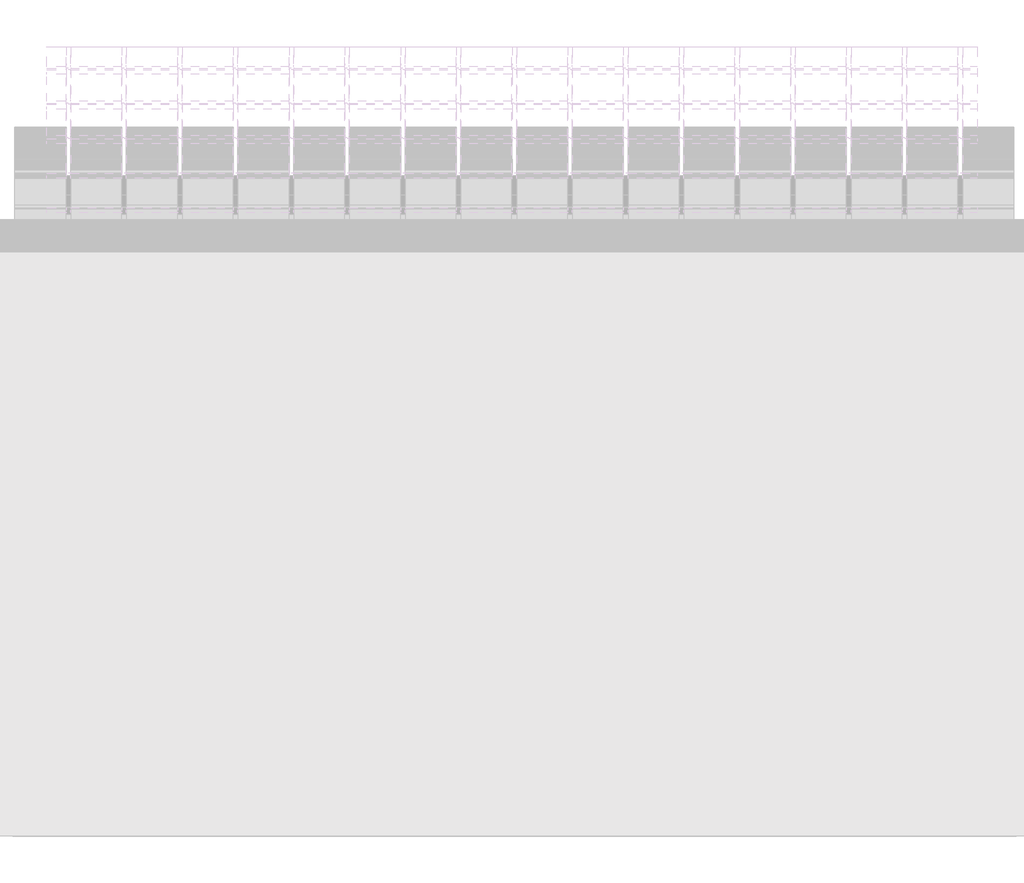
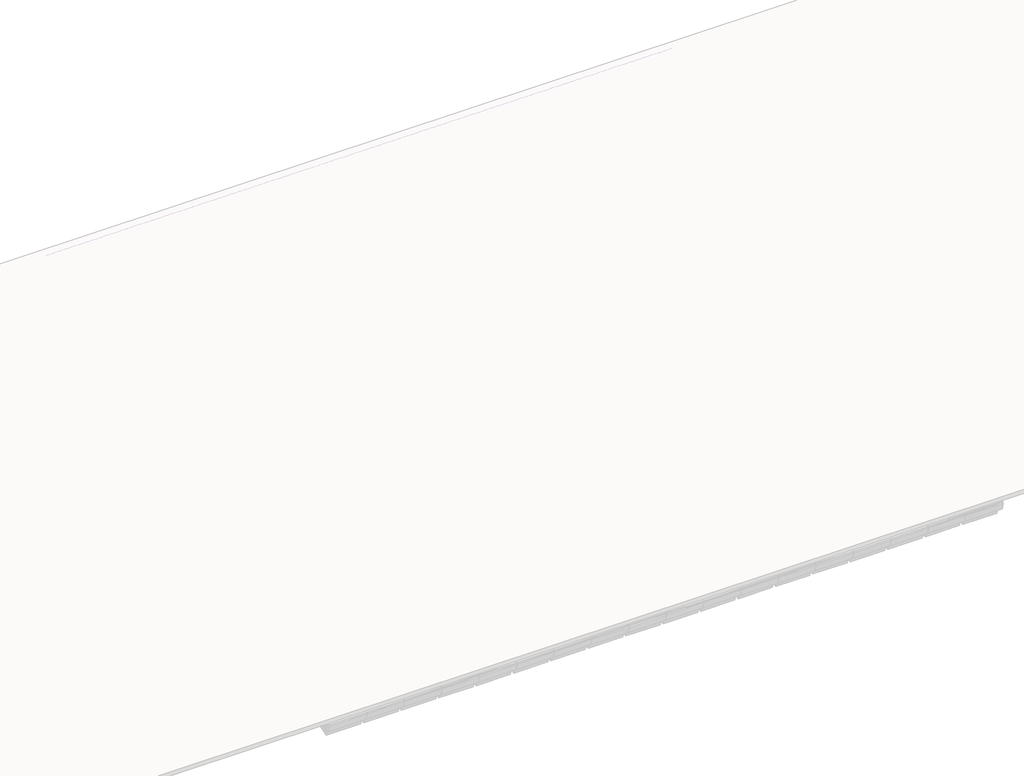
# One storey, part 17 of 57: 80 members, 44 plates.
"""IFC4 building model written with IfcOpenShell, lengths in millimetres."""

from ifc_helpers import new_model, si_unit, origin, place, context, project, spatial, transform, mapped, element, save
from components import rectangular_mullion_59984080, rectangular_mullion_2d2423ea, rectangular_mullion_caibro_e4384bba, rectangular_mullion_caibro_0993a3cf, rectangular_mullion_caibro_9bd7bc61, empty_system_panel_vazio_178faf58, empty_system_panel_vazio_2c78850d

model = new_model("IFC4")

# Units and contexts
model_context = context("Model", 3, world=origin())
ifc_project = project(units=[si_unit("LENGTHUNIT", "METRE", prefix="MILLI")], contexts=[model_context])

# Site, building, storey
site = spatial("IfcSite", under=ifc_project)
building = spatial("IfcBuilding", under=site)
storey = spatial("IfcBuildingStorey", under=building, Name="Nível 2", Elevation=4100.0)

# Members
placement = place(None, origin())
rectangular_mullion_shape = rectangular_mullion_59984080(model_context)
element("IfcMember", 1, ObjectType="Rectangular Mullion : Ripa", at=placement, inside=storey, context=model_context, shape_type="MappedRepresentation", body=[
    mapped(rectangular_mullion_shape, transform((12523.6662678, 8162.5832694, 3598.8241594), x_axis=(0.0, 0.9578262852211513, 0.2873478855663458), y_axis=(0.0, 0.2873478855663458, -0.9578262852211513), z_axis=(-1.0, 0.0, 0.0))),
])
element("IfcMember", 2, ObjectType="Rectangular Mullion : Ripa", at=placement, inside=storey, context=model_context, shape_type="MappedRepresentation", body=[
    mapped(rectangular_mullion_shape, transform((13120.7210242, 8162.5832694, 3598.8241594), x_axis=(0.0, 0.9578262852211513, 0.2873478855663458), y_axis=(0.0, 0.2873478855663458, -0.9578262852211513), z_axis=(-1.0, 0.0, 0.0))),
])
element("IfcMember", 3, ObjectType="Rectangular Mullion : Ripa", at=placement, inside=storey, context=model_context, shape_type="MappedRepresentation", body=[
    mapped(rectangular_mullion_shape, transform((13717.7757807, 8162.5832694, 3598.8241594), x_axis=(0.0, 0.9578262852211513, 0.2873478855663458), y_axis=(0.0, 0.2873478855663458, -0.9578262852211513), z_axis=(-1.0, 0.0, 0.0))),
])
element("IfcMember", 4, ObjectType="Rectangular Mullion : Ripa", at=placement, inside=storey, context=model_context, shape_type="MappedRepresentation", body=[
    mapped(rectangular_mullion_shape, transform((14314.8305371, 8162.5832694, 3598.8241594), x_axis=(0.0, 0.9578262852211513, 0.2873478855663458), y_axis=(0.0, 0.2873478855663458, -0.9578262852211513), z_axis=(-1.0, 0.0, 0.0))),
])
element("IfcMember", 5, ObjectType="Rectangular Mullion : Ripa", at=placement, inside=storey, context=model_context, shape_type="MappedRepresentation", body=[
    mapped(rectangular_mullion_shape, transform((14911.8852935, 8162.5832694, 3598.8241594), x_axis=(0.0, 0.9578262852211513, 0.2873478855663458), y_axis=(0.0, 0.2873478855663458, -0.9578262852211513), z_axis=(-1.0, 0.0, 0.0))),
])
element("IfcMember", 6, ObjectType="Rectangular Mullion : Ripa", at=placement, inside=storey, context=model_context, shape_type="MappedRepresentation", body=[
    mapped(rectangular_mullion_shape, transform((15508.9400499, 8162.5832694, 3598.8241594), x_axis=(0.0, 0.9578262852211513, 0.2873478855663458), y_axis=(0.0, 0.2873478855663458, -0.9578262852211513), z_axis=(-1.0, 0.0, 0.0))),
])
element("IfcMember", 7, ObjectType="Rectangular Mullion : Ripa", at=placement, inside=storey, context=model_context, shape_type="MappedRepresentation", body=[
    mapped(rectangular_mullion_shape, transform((12523.6662678, 8532.7605281, 3709.877337), x_axis=(0.0, 0.9578262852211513, 0.2873478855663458), y_axis=(0.0, 0.2873478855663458, -0.9578262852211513), z_axis=(-1.0, 0.0, 0.0))),
])
element("IfcMember", 8, ObjectType="Rectangular Mullion : Ripa", at=placement, inside=storey, context=model_context, shape_type="MappedRepresentation", body=[
    mapped(rectangular_mullion_shape, transform((13120.7210242, 8532.7605281, 3709.877337), x_axis=(0.0, 0.9578262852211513, 0.2873478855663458), y_axis=(0.0, 0.2873478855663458, -0.9578262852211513), z_axis=(-1.0, 0.0, 0.0))),
])
element("IfcMember", 9, ObjectType="Rectangular Mullion : Ripa", at=placement, inside=storey, context=model_context, shape_type="MappedRepresentation", body=[
    mapped(rectangular_mullion_shape, transform((13717.7757807, 8532.7605281, 3709.877337), x_axis=(0.0, 0.9578262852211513, 0.2873478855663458), y_axis=(0.0, 0.2873478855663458, -0.9578262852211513), z_axis=(-1.0, 0.0, 0.0))),
])
element("IfcMember", 10, ObjectType="Rectangular Mullion : Ripa", at=placement, inside=storey, context=model_context, shape_type="MappedRepresentation", body=[
    mapped(rectangular_mullion_shape, transform((14314.8305371, 8532.7605281, 3709.877337), x_axis=(0.0, 0.9578262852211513, 0.2873478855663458), y_axis=(0.0, 0.2873478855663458, -0.9578262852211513), z_axis=(-1.0, 0.0, 0.0))),
])
element("IfcMember", 11, ObjectType="Rectangular Mullion : Ripa", at=placement, inside=storey, context=model_context, shape_type="MappedRepresentation", body=[
    mapped(rectangular_mullion_shape, transform((14911.8852935, 8532.7605281, 3709.877337), x_axis=(0.0, 0.9578262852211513, 0.2873478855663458), y_axis=(0.0, 0.2873478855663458, -0.9578262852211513), z_axis=(-1.0, 0.0, 0.0))),
])
element("IfcMember", 12, ObjectType="Rectangular Mullion : Ripa", at=placement, inside=storey, context=model_context, shape_type="MappedRepresentation", body=[
    mapped(rectangular_mullion_shape, transform((15508.9400499, 8532.7605281, 3709.877337), x_axis=(0.0, 0.9578262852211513, 0.2873478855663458), y_axis=(0.0, 0.2873478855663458, -0.9578262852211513), z_axis=(-1.0, 0.0, 0.0))),
])
element("IfcMember", 13, ObjectType="Rectangular Mullion : Ripa", at=placement, inside=storey, context=model_context, shape_type="MappedRepresentation", body=[
    mapped(rectangular_mullion_shape, transform((12523.6662678, 8902.9377868, 3820.9305146), x_axis=(0.0, 0.9578262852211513, 0.2873478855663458), y_axis=(0.0, 0.2873478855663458, -0.9578262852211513), z_axis=(-1.0, 0.0, 0.0))),
])
element("IfcMember", 14, ObjectType="Rectangular Mullion : Ripa", at=placement, inside=storey, context=model_context, shape_type="MappedRepresentation", body=[
    mapped(rectangular_mullion_shape, transform((13120.7210242, 8902.9377868, 3820.9305146), x_axis=(0.0, 0.9578262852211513, 0.2873478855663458), y_axis=(0.0, 0.2873478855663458, -0.9578262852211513), z_axis=(-1.0, 0.0, 0.0))),
])
element("IfcMember", 15, ObjectType="Rectangular Mullion : Ripa", at=placement, inside=storey, context=model_context, shape_type="MappedRepresentation", body=[
    mapped(rectangular_mullion_shape, transform((13717.7757807, 8902.9377868, 3820.9305146), x_axis=(0.0, 0.9578262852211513, 0.2873478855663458), y_axis=(0.0, 0.2873478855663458, -0.9578262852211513), z_axis=(-1.0, 0.0, 0.0))),
])
element("IfcMember", 16, ObjectType="Rectangular Mullion : Ripa", at=placement, inside=storey, context=model_context, shape_type="MappedRepresentation", body=[
    mapped(rectangular_mullion_shape, transform((14314.8305371, 8902.9377868, 3820.9305146), x_axis=(0.0, 0.9578262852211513, 0.2873478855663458), y_axis=(0.0, 0.2873478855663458, -0.9578262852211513), z_axis=(-1.0, 0.0, 0.0))),
])
element("IfcMember", 17, ObjectType="Rectangular Mullion : Ripa", at=placement, inside=storey, context=model_context, shape_type="MappedRepresentation", body=[
    mapped(rectangular_mullion_shape, transform((14911.8852935, 8902.9377868, 3820.9305146), x_axis=(0.0, 0.9578262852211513, 0.2873478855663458), y_axis=(0.0, 0.2873478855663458, -0.9578262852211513), z_axis=(-1.0, 0.0, 0.0))),
])
element("IfcMember", 18, ObjectType="Rectangular Mullion : Ripa", at=placement, inside=storey, context=model_context, shape_type="MappedRepresentation", body=[
    mapped(rectangular_mullion_shape, transform((15508.9400499, 8902.9377868, 3820.9305146), x_axis=(0.0, 0.9578262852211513, 0.2873478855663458), y_axis=(0.0, 0.2873478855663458, -0.9578262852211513), z_axis=(-1.0, 0.0, 0.0))),
])
element("IfcMember", 19, ObjectType="Rectangular Mullion : Ripa", at=placement, inside=storey, context=model_context, shape_type="MappedRepresentation", body=[
    mapped(rectangular_mullion_shape, transform((12523.6662678, 9273.1150454, 3931.9836922), x_axis=(0.0, 0.9578262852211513, 0.2873478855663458), y_axis=(0.0, 0.2873478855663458, -0.9578262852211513), z_axis=(-1.0, 0.0, 0.0))),
])
element("IfcMember", 20, ObjectType="Rectangular Mullion : Ripa", at=placement, inside=storey, context=model_context, shape_type="MappedRepresentation", body=[
    mapped(rectangular_mullion_shape, transform((13120.7210242, 9273.1150454, 3931.9836922), x_axis=(0.0, 0.9578262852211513, 0.2873478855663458), y_axis=(0.0, 0.2873478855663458, -0.9578262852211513), z_axis=(-1.0, 0.0, 0.0))),
])
element("IfcMember", 21, ObjectType="Rectangular Mullion : Ripa", at=placement, inside=storey, context=model_context, shape_type="MappedRepresentation", body=[
    mapped(rectangular_mullion_shape, transform((13717.7757807, 9273.1150454, 3931.9836922), x_axis=(0.0, 0.9578262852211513, 0.2873478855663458), y_axis=(0.0, 0.2873478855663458, -0.9578262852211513), z_axis=(-1.0, 0.0, 0.0))),
])
element("IfcMember", 22, ObjectType="Rectangular Mullion : Ripa", at=placement, inside=storey, context=model_context, shape_type="MappedRepresentation", body=[
    mapped(rectangular_mullion_shape, transform((14314.8305371, 9273.1150454, 3931.9836922), x_axis=(0.0, 0.9578262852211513, 0.2873478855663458), y_axis=(0.0, 0.2873478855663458, -0.9578262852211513), z_axis=(-1.0, 0.0, 0.0))),
])
element("IfcMember", 23, ObjectType="Rectangular Mullion : Ripa", at=placement, inside=storey, context=model_context, shape_type="MappedRepresentation", body=[
    mapped(rectangular_mullion_shape, transform((12523.6662678, 9643.2923041, 4043.0368698), x_axis=(0.0, 0.9578262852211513, 0.2873478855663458), y_axis=(0.0, 0.2873478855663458, -0.9578262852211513), z_axis=(-1.0, 0.0, 0.0))),
])
element("IfcMember", 24, ObjectType="Rectangular Mullion : Ripa", at=placement, inside=storey, context=model_context, shape_type="MappedRepresentation", body=[
    mapped(rectangular_mullion_shape, transform((13120.7210242, 9643.2923041, 4043.0368698), x_axis=(0.0, 0.9578262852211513, 0.2873478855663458), y_axis=(0.0, 0.2873478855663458, -0.9578262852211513), z_axis=(-1.0, 0.0, 0.0))),
])
element("IfcMember", 25, ObjectType="Rectangular Mullion : Ripa", at=placement, inside=storey, context=model_context, shape_type="MappedRepresentation", body=[
    mapped(rectangular_mullion_shape, transform((13717.7757807, 9643.2923041, 4043.0368698), x_axis=(0.0, 0.9578262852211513, 0.2873478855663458), y_axis=(0.0, 0.2873478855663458, -0.9578262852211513), z_axis=(-1.0, 0.0, 0.0))),
])
element("IfcMember", 26, ObjectType="Rectangular Mullion : Ripa", at=placement, inside=storey, context=model_context, shape_type="MappedRepresentation", body=[
    mapped(rectangular_mullion_shape, transform((11329.556755, 11124.0013387, 4487.2495802), x_axis=(0.0, 0.9578262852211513, 0.2873478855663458), y_axis=(0.0, 0.2873478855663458, -0.9578262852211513), z_axis=(-1.0, 0.0, 0.0))),
])
element("IfcMember", 27, ObjectType="Rectangular Mullion : Ripa", at=placement, inside=storey, context=model_context, shape_type="MappedRepresentation", body=[
    mapped(rectangular_mullion_shape, transform((11926.6115114, 11124.0013387, 4487.2495802), x_axis=(0.0, 0.9578262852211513, 0.2873478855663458), y_axis=(0.0, 0.2873478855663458, -0.9578262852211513), z_axis=(-1.0, 0.0, 0.0))),
])
element("IfcMember", 28, ObjectType="Rectangular Mullion : Ripa", at=placement, inside=storey, context=model_context, shape_type="MappedRepresentation", body=[
    mapped(rectangular_mullion_shape, transform((11329.556755, 11494.1785974, 4598.3027578), x_axis=(0.0, 0.9578262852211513, 0.2873478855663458), y_axis=(0.0, 0.2873478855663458, -0.9578262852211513), z_axis=(-1.0, 0.0, 0.0))),
])
element("IfcMember", 29, ObjectType="Rectangular Mullion : Ripa", at=placement, inside=storey, context=model_context, shape_type="MappedRepresentation", body=[
    mapped(rectangular_mullion_shape, transform((11926.6115114, 11494.1785974, 4598.3027578), x_axis=(0.0, 0.9578262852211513, 0.2873478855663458), y_axis=(0.0, 0.2873478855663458, -0.9578262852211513), z_axis=(-1.0, 0.0, 0.0))),
])
element("IfcMember", 30, ObjectType="Rectangular Mullion : Ripa", at=placement, inside=storey, context=model_context, shape_type="MappedRepresentation", body=[
    mapped(rectangular_mullion_shape, transform((10732.5019985, 11864.3558561, 4709.3559354), x_axis=(0.0, 0.9578262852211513, 0.2873478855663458), y_axis=(0.0, 0.2873478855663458, -0.9578262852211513), z_axis=(-1.0, 0.0, 0.0))),
])
element("IfcMember", 31, ObjectType="Rectangular Mullion : Ripa", at=placement, inside=storey, context=model_context, shape_type="MappedRepresentation", body=[
    mapped(rectangular_mullion_shape, transform((11329.556755, 11864.3558561, 4709.3559354), x_axis=(0.0, 0.9578262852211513, 0.2873478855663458), y_axis=(0.0, 0.2873478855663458, -0.9578262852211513), z_axis=(-1.0, 0.0, 0.0))),
])
element("IfcMember", 32, ObjectType="Rectangular Mullion : Ripa", at=placement, inside=storey, context=model_context, shape_type="MappedRepresentation", body=[
    mapped(rectangular_mullion_shape, transform((11926.6115114, 11864.3558561, 4709.3559354), x_axis=(0.0, 0.9578262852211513, 0.2873478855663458), y_axis=(0.0, 0.2873478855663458, -0.9578262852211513), z_axis=(-1.0, 0.0, 0.0))),
])
rectangular_mullion_2_shape = rectangular_mullion_2d2423ea(model_context)
element("IfcMember", 33, ObjectType="Rectangular Mullion : Terça", at=placement, inside=storey, context=model_context, shape_type="MappedRepresentation", body=[
    mapped(rectangular_mullion_2_shape, transform((12523.6662678, 9159.0196393, 3835.1132313), x_axis=(0.0, 0.9578262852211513, 0.2873478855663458), y_axis=(0.0, 0.2873478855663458, -0.9578262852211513), z_axis=(-1.0, 0.0, 0.0))),
])
element("IfcMember", 34, ObjectType="Rectangular Mullion : Terça", at=placement, inside=storey, context=model_context, shape_type="MappedRepresentation", body=[
    mapped(rectangular_mullion_2_shape, transform((13120.7210242, 9159.0196393, 3835.1132313), x_axis=(0.0, 0.9578262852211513, 0.2873478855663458), y_axis=(0.0, 0.2873478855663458, -0.9578262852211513), z_axis=(-1.0, 0.0, 0.0))),
])
element("IfcMember", 35, ObjectType="Rectangular Mullion : Terça", at=placement, inside=storey, context=model_context, shape_type="MappedRepresentation", body=[
    mapped(rectangular_mullion_2_shape, transform((13717.7757807, 9159.0196393, 3835.1132313), x_axis=(0.0, 0.9578262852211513, 0.2873478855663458), y_axis=(0.0, 0.2873478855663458, -0.9578262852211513), z_axis=(-1.0, 0.0, 0.0))),
])
element("IfcMember", 36, ObjectType="Rectangular Mullion : Terça", at=placement, inside=storey, context=model_context, shape_type="MappedRepresentation", body=[
    mapped(rectangular_mullion_2_shape, transform((10135.4472421, 11285.144311, 4472.9506328), x_axis=(0.0, 0.9578262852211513, 0.2873478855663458), y_axis=(0.0, 0.2873478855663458, -0.9578262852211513), z_axis=(-1.0, 0.0, 0.0))),
])
element("IfcMember", 37, ObjectType="Rectangular Mullion : Terça", at=placement, inside=storey, context=model_context, shape_type="MappedRepresentation", body=[
    mapped(rectangular_mullion_2_shape, transform((10732.5019985, 11285.144311, 4472.9506328), x_axis=(0.0, 0.9578262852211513, 0.2873478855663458), y_axis=(0.0, 0.2873478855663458, -0.9578262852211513), z_axis=(-1.0, 0.0, 0.0))),
])
element("IfcMember", 38, ObjectType="Rectangular Mullion : Terça", at=placement, inside=storey, context=model_context, shape_type="MappedRepresentation", body=[
    mapped(rectangular_mullion_2_shape, transform((11329.556755, 11285.144311, 4472.9506328), x_axis=(0.0, 0.9578262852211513, 0.2873478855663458), y_axis=(0.0, 0.2873478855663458, -0.9578262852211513), z_axis=(-1.0, 0.0, 0.0))),
])
element("IfcMember", 39, ObjectType="Rectangular Mullion : Terça", at=placement, inside=storey, context=model_context, shape_type="MappedRepresentation", body=[
    mapped(rectangular_mullion_2_shape, transform((11926.6115114, 11285.144311, 4472.9506328), x_axis=(0.0, 0.9578262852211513, 0.2873478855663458), y_axis=(0.0, 0.2873478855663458, -0.9578262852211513), z_axis=(-1.0, 0.0, 0.0))),
])
rectangular_mullion_caibro_shape = rectangular_mullion_caibro_e4384bba(model_context)
element("IfcMember", 40, ObjectType="Rectangular Mullion : Caibro", at=placement, inside=storey, context=model_context, shape_type="MappedRepresentation", body=[
    mapped(rectangular_mullion_caibro_shape, transform((11304.556755, 11124.0013387, 4487.2495802), x_axis=(1.0, 0.0, 0.0), y_axis=(0.0, 0.2873478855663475, -0.9578262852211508), z_axis=(0.0, 0.9578262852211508, 0.2873478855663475))),
])
element("IfcMember", 41, ObjectType="Rectangular Mullion : Caibro", at=placement, inside=storey, context=model_context, shape_type="MappedRepresentation", body=[
    mapped(rectangular_mullion_caibro_shape, transform((11304.556755, 11494.1785974, 4598.3027578), x_axis=(1.0, 0.0, 0.0), y_axis=(0.0, 0.28734788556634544, -0.9578262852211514), z_axis=(0.0, 0.9578262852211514, 0.28734788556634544))),
])
element("IfcMember", 42, ObjectType="Rectangular Mullion : Caibro", at=placement, inside=storey, context=model_context, shape_type="MappedRepresentation", body=[
    mapped(rectangular_mullion_caibro_shape, transform((11304.556755, 11864.3558561, 4709.3559354), x_axis=(1.0, 0.0, 0.0), y_axis=(0.0, 0.28734788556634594, -0.9578262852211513), z_axis=(0.0, 0.9578262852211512, 0.2873478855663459))),
])
element("IfcMember", 43, ObjectType="Rectangular Mullion : Caibro", at=placement, inside=storey, context=model_context, shape_type="MappedRepresentation", body=[
    mapped(rectangular_mullion_caibro_shape, transform((11901.6115114, 11124.0013387, 4487.2495802), x_axis=(1.0, 0.0, 0.0), y_axis=(0.0, 0.2873478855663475, -0.9578262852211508), z_axis=(0.0, 0.9578262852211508, 0.2873478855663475))),
])
element("IfcMember", 44, ObjectType="Rectangular Mullion : Caibro", at=placement, inside=storey, context=model_context, shape_type="MappedRepresentation", body=[
    mapped(rectangular_mullion_caibro_shape, transform((11901.6115114, 11494.1785974, 4598.3027578), x_axis=(1.0, 0.0, 0.0), y_axis=(0.0, 0.28734788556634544, -0.9578262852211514), z_axis=(0.0, 0.9578262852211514, 0.28734788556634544))),
])
element("IfcMember", 45, ObjectType="Rectangular Mullion : Caibro", at=placement, inside=storey, context=model_context, shape_type="MappedRepresentation", body=[
    mapped(rectangular_mullion_caibro_shape, transform((11901.6115114, 11864.3558561, 4709.3559354), x_axis=(1.0, 0.0, 0.0), y_axis=(0.0, 0.28734788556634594, -0.9578262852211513), z_axis=(0.0, 0.9578262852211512, 0.2873478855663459))),
])
element("IfcMember", 46, ObjectType="Rectangular Mullion : Caibro", at=placement, inside=storey, context=model_context, shape_type="MappedRepresentation", body=[
    mapped(rectangular_mullion_caibro_shape, transform((12498.6662678, 8162.5832694, 3598.8241594), x_axis=(1.0, 0.0, 0.0), y_axis=(0.0, 0.28734788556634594, -0.9578262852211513), z_axis=(0.0, 0.9578262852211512, 0.2873478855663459))),
])
element("IfcMember", 47, ObjectType="Rectangular Mullion : Caibro", at=placement, inside=storey, context=model_context, shape_type="MappedRepresentation", body=[
    mapped(rectangular_mullion_caibro_shape, transform((12498.6662678, 8532.7605281, 3709.877337), x_axis=(1.0, 0.0, 0.0), y_axis=(0.0, 0.2873478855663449, -0.9578262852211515), z_axis=(0.0, 0.9578262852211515, 0.2873478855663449))),
])
element("IfcMember", 48, ObjectType="Rectangular Mullion : Caibro", at=placement, inside=storey, context=model_context, shape_type="MappedRepresentation", body=[
    mapped(rectangular_mullion_caibro_shape, transform((12498.6662678, 8902.9377868, 3820.9305146), x_axis=(1.0, 0.0, 0.0), y_axis=(0.0, 0.2873478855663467, -0.9578262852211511), z_axis=(0.0, 0.9578262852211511, 0.2873478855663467))),
])
element("IfcMember", 49, ObjectType="Rectangular Mullion : Caibro", at=placement, inside=storey, context=model_context, shape_type="MappedRepresentation", body=[
    mapped(rectangular_mullion_caibro_shape, transform((12498.6662678, 9273.1150454, 3931.9836922), x_axis=(1.0, 0.0, 0.0), y_axis=(0.0, 0.2873478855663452, -0.9578262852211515), z_axis=(0.0, 0.9578262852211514, 0.28734788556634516))),
])
element("IfcMember", 50, ObjectType="Rectangular Mullion : Caibro", at=placement, inside=storey, context=model_context, shape_type="MappedRepresentation", body=[
    mapped(rectangular_mullion_caibro_shape, transform((12498.6662678, 9643.2923041, 4043.0368698), x_axis=(1.0, 0.0, 0.0), y_axis=(0.0, 0.2873478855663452, -0.9578262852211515), z_axis=(0.0, 0.9578262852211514, 0.28734788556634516))),
])
element("IfcMember", 51, ObjectType="Rectangular Mullion : Caibro", at=placement, inside=storey, context=model_context, shape_type="MappedRepresentation", body=[
    mapped(rectangular_mullion_caibro_shape, transform((13095.7210242, 8162.5832694, 3598.8241594), x_axis=(1.0, 0.0, 0.0), y_axis=(0.0, 0.28734788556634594, -0.9578262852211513), z_axis=(0.0, 0.9578262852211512, 0.2873478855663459))),
])
element("IfcMember", 52, ObjectType="Rectangular Mullion : Caibro", at=placement, inside=storey, context=model_context, shape_type="MappedRepresentation", body=[
    mapped(rectangular_mullion_caibro_shape, transform((13095.7210242, 8532.7605281, 3709.877337), x_axis=(1.0, 0.0, 0.0), y_axis=(0.0, 0.2873478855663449, -0.9578262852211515), z_axis=(0.0, 0.9578262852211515, 0.2873478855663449))),
])
element("IfcMember", 53, ObjectType="Rectangular Mullion : Caibro", at=placement, inside=storey, context=model_context, shape_type="MappedRepresentation", body=[
    mapped(rectangular_mullion_caibro_shape, transform((13095.7210242, 8902.9377868, 3820.9305146), x_axis=(1.0, 0.0, 0.0), y_axis=(0.0, 0.2873478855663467, -0.9578262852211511), z_axis=(0.0, 0.9578262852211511, 0.2873478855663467))),
])
element("IfcMember", 54, ObjectType="Rectangular Mullion : Caibro", at=placement, inside=storey, context=model_context, shape_type="MappedRepresentation", body=[
    mapped(rectangular_mullion_caibro_shape, transform((13095.7210242, 9273.1150454, 3931.9836922), x_axis=(1.0, 0.0, 0.0), y_axis=(0.0, 0.2873478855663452, -0.9578262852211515), z_axis=(0.0, 0.9578262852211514, 0.28734788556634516))),
])
element("IfcMember", 55, ObjectType="Rectangular Mullion : Caibro", at=placement, inside=storey, context=model_context, shape_type="MappedRepresentation", body=[
    mapped(rectangular_mullion_caibro_shape, transform((13095.7210242, 9643.2923041, 4043.0368698), x_axis=(1.0, 0.0, 0.0), y_axis=(0.0, 0.2873478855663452, -0.9578262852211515), z_axis=(0.0, 0.9578262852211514, 0.28734788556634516))),
])
element("IfcMember", 56, ObjectType="Rectangular Mullion : Caibro", at=placement, inside=storey, context=model_context, shape_type="MappedRepresentation", body=[
    mapped(rectangular_mullion_caibro_shape, transform((13692.7757807, 8162.5832694, 3598.8241594), x_axis=(1.0, 0.0, 0.0), y_axis=(0.0, 0.28734788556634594, -0.9578262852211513), z_axis=(0.0, 0.9578262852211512, 0.2873478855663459))),
])
element("IfcMember", 57, ObjectType="Rectangular Mullion : Caibro", at=placement, inside=storey, context=model_context, shape_type="MappedRepresentation", body=[
    mapped(rectangular_mullion_caibro_shape, transform((13692.7757807, 8532.7605281, 3709.877337), x_axis=(1.0, 0.0, 0.0), y_axis=(0.0, 0.2873478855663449, -0.9578262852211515), z_axis=(0.0, 0.9578262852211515, 0.2873478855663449))),
])
element("IfcMember", 58, ObjectType="Rectangular Mullion : Caibro", at=placement, inside=storey, context=model_context, shape_type="MappedRepresentation", body=[
    mapped(rectangular_mullion_caibro_shape, transform((13692.7757807, 8902.9377868, 3820.9305146), x_axis=(1.0, 0.0, 0.0), y_axis=(0.0, 0.2873478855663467, -0.9578262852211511), z_axis=(0.0, 0.9578262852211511, 0.2873478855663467))),
])
element("IfcMember", 59, ObjectType="Rectangular Mullion : Caibro", at=placement, inside=storey, context=model_context, shape_type="MappedRepresentation", body=[
    mapped(rectangular_mullion_caibro_shape, transform((13692.7757807, 9273.1150454, 3931.9836922), x_axis=(1.0, 0.0, 0.0), y_axis=(0.0, 0.2873478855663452, -0.9578262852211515), z_axis=(0.0, 0.9578262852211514, 0.28734788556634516))),
])
element("IfcMember", 60, ObjectType="Rectangular Mullion : Caibro", at=placement, inside=storey, context=model_context, shape_type="MappedRepresentation", body=[
    mapped(rectangular_mullion_caibro_shape, transform((13692.7757807, 9643.2923041, 4043.0368698), x_axis=(1.0, 0.0, 0.0), y_axis=(0.0, 0.2873478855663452, -0.9578262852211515), z_axis=(0.0, 0.9578262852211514, 0.28734788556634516))),
])
element("IfcMember", 61, ObjectType="Rectangular Mullion : Caibro", at=placement, inside=storey, context=model_context, shape_type="MappedRepresentation", body=[
    mapped(rectangular_mullion_caibro_shape, transform((14289.8305371, 8162.5832694, 3598.8241594), x_axis=(1.0, 0.0, 0.0), y_axis=(0.0, 0.28734788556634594, -0.9578262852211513), z_axis=(0.0, 0.9578262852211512, 0.2873478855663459))),
])
element("IfcMember", 62, ObjectType="Rectangular Mullion : Caibro", at=placement, inside=storey, context=model_context, shape_type="MappedRepresentation", body=[
    mapped(rectangular_mullion_caibro_shape, transform((14289.8305371, 8532.7605281, 3709.877337), x_axis=(1.0, 0.0, 0.0), y_axis=(0.0, 0.2873478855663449, -0.9578262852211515), z_axis=(0.0, 0.9578262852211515, 0.2873478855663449))),
])
element("IfcMember", 63, ObjectType="Rectangular Mullion : Caibro", at=placement, inside=storey, context=model_context, shape_type="MappedRepresentation", body=[
    mapped(rectangular_mullion_caibro_shape, transform((14289.8305371, 8902.9377868, 3820.9305146), x_axis=(1.0, 0.0, 0.0), y_axis=(0.0, 0.2873478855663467, -0.9578262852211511), z_axis=(0.0, 0.9578262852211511, 0.2873478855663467))),
])
element("IfcMember", 64, ObjectType="Rectangular Mullion : Caibro", at=placement, inside=storey, context=model_context, shape_type="MappedRepresentation", body=[
    mapped(rectangular_mullion_caibro_shape, transform((14289.8305371, 9273.1150454, 3931.9836922), x_axis=(1.0, 0.0, 0.0), y_axis=(0.0, 0.2873478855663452, -0.9578262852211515), z_axis=(0.0, 0.9578262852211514, 0.28734788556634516))),
])
element("IfcMember", 65, ObjectType="Rectangular Mullion : Caibro", at=placement, inside=storey, context=model_context, shape_type="MappedRepresentation", body=[
    mapped(rectangular_mullion_caibro_shape, transform((14289.8305371, 9643.2923041, 4043.0368698), x_axis=(1.0, 0.0, 0.0), y_axis=(0.0, 0.2873478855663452, -0.9578262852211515), z_axis=(0.0, 0.9578262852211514, 0.28734788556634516))),
])
element("IfcMember", 66, ObjectType="Rectangular Mullion : Caibro", at=placement, inside=storey, context=model_context, shape_type="MappedRepresentation", body=[
    mapped(rectangular_mullion_caibro_shape, transform((14886.8852935, 8162.5832694, 3598.8241594), x_axis=(1.0, 0.0, 0.0), y_axis=(0.0, 0.28734788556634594, -0.9578262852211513), z_axis=(0.0, 0.9578262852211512, 0.2873478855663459))),
])
element("IfcMember", 67, ObjectType="Rectangular Mullion : Caibro", at=placement, inside=storey, context=model_context, shape_type="MappedRepresentation", body=[
    mapped(rectangular_mullion_caibro_shape, transform((14886.8852935, 8532.7605281, 3709.877337), x_axis=(1.0, 0.0, 0.0), y_axis=(0.0, 0.2873478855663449, -0.9578262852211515), z_axis=(0.0, 0.9578262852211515, 0.2873478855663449))),
])
element("IfcMember", 68, ObjectType="Rectangular Mullion : Caibro", at=placement, inside=storey, context=model_context, shape_type="MappedRepresentation", body=[
    mapped(rectangular_mullion_caibro_shape, transform((14886.8852935, 8902.9377868, 3820.9305146), x_axis=(1.0, 0.0, 0.0), y_axis=(0.0, 0.2873478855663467, -0.9578262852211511), z_axis=(0.0, 0.9578262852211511, 0.2873478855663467))),
])
element("IfcMember", 69, ObjectType="Rectangular Mullion : Caibro", at=placement, inside=storey, context=model_context, shape_type="MappedRepresentation", body=[
    mapped(rectangular_mullion_caibro_shape, transform((14886.8852935, 9273.1150454, 3931.9836922), x_axis=(1.0, 0.0, 0.0), y_axis=(0.0, 0.2873478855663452, -0.9578262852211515), z_axis=(0.0, 0.9578262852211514, 0.28734788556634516))),
])
element("IfcMember", 70, ObjectType="Rectangular Mullion : Caibro", at=placement, inside=storey, context=model_context, shape_type="MappedRepresentation", body=[
    mapped(rectangular_mullion_caibro_shape, transform((14886.8852935, 9643.2923041, 4043.0368698), x_axis=(1.0, 0.0, 0.0), y_axis=(0.0, 0.2873478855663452, -0.9578262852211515), z_axis=(0.0, 0.9578262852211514, 0.28734788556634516))),
])
element("IfcMember", 71, ObjectType="Rectangular Mullion : Caibro", at=placement, inside=storey, context=model_context, shape_type="MappedRepresentation", body=[
    mapped(rectangular_mullion_caibro_shape, transform((15483.9400499, 8162.5832694, 3598.8241594), x_axis=(1.0, 0.0, 0.0), y_axis=(0.0, 0.28734788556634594, -0.9578262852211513), z_axis=(0.0, 0.9578262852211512, 0.2873478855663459))),
])
element("IfcMember", 72, ObjectType="Rectangular Mullion : Caibro", at=placement, inside=storey, context=model_context, shape_type="MappedRepresentation", body=[
    mapped(rectangular_mullion_caibro_shape, transform((15483.9400499, 8532.7605281, 3709.877337), x_axis=(1.0, 0.0, 0.0), y_axis=(0.0, 0.2873478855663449, -0.9578262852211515), z_axis=(0.0, 0.9578262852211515, 0.2873478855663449))),
])
element("IfcMember", 73, ObjectType="Rectangular Mullion : Caibro", at=placement, inside=storey, context=model_context, shape_type="MappedRepresentation", body=[
    mapped(rectangular_mullion_caibro_shape, transform((15483.9400499, 8902.9377868, 3820.9305146), x_axis=(1.0, 0.0, 0.0), y_axis=(0.0, 0.2873478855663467, -0.9578262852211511), z_axis=(0.0, 0.9578262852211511, 0.2873478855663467))),
])
rectangular_mullion_caibro_2_shape = rectangular_mullion_caibro_0993a3cf(model_context)
element("IfcMember", 74, ObjectType="Rectangular Mullion : Caibro", at=placement, inside=storey, context=model_context, shape_type="MappedRepresentation", body=[
    mapped(rectangular_mullion_caibro_2_shape, transform((12498.6662678, 9159.0196393, 3835.1132313), x_axis=(1.0, 0.0, 0.0), y_axis=(0.0, 0.2873478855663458, -0.9578262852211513), z_axis=(0.0, 0.9578262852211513, 0.2873478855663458))),
])
element("IfcMember", 75, ObjectType="Rectangular Mullion : Caibro", at=placement, inside=storey, context=model_context, shape_type="MappedRepresentation", body=[
    mapped(rectangular_mullion_caibro_2_shape, transform((13095.7210242, 9159.0196393, 3835.1132313), x_axis=(1.0, 0.0, 0.0), y_axis=(0.0, 0.2873478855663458, -0.9578262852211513), z_axis=(0.0, 0.9578262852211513, 0.2873478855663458))),
])
element("IfcMember", 76, ObjectType="Rectangular Mullion : Caibro", at=placement, inside=storey, context=model_context, shape_type="MappedRepresentation", body=[
    mapped(rectangular_mullion_caibro_2_shape, transform((13692.7757807, 9159.0196393, 3835.1132313), x_axis=(1.0, 0.0, 0.0), y_axis=(0.0, 0.2873478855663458, -0.9578262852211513), z_axis=(0.0, 0.9578262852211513, 0.2873478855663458))),
])
rectangular_mullion_caibro_3_shape = rectangular_mullion_caibro_9bd7bc61(model_context)
element("IfcMember", 77, ObjectType="Rectangular Mullion : Caibro", at=placement, inside=storey, context=model_context, shape_type="MappedRepresentation", body=[
    mapped(rectangular_mullion_caibro_3_shape, transform((10110.4472421, 11285.144311, 4472.9506328), x_axis=(1.0, 0.0, 0.0), y_axis=(0.0, 0.28734788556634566, -0.9578262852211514), z_axis=(0.0, 0.9578262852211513, 0.2873478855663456))),
])
element("IfcMember", 78, ObjectType="Rectangular Mullion : Caibro", at=placement, inside=storey, context=model_context, shape_type="MappedRepresentation", body=[
    mapped(rectangular_mullion_caibro_3_shape, transform((10707.5019985, 11285.144311, 4472.9506328), x_axis=(1.0, 0.0, 0.0), y_axis=(0.0, 0.28734788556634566, -0.9578262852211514), z_axis=(0.0, 0.9578262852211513, 0.2873478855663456))),
])
element("IfcMember", 79, ObjectType="Rectangular Mullion : Caibro", at=placement, inside=storey, context=model_context, shape_type="MappedRepresentation", body=[
    mapped(rectangular_mullion_caibro_3_shape, transform((11304.556755, 11285.144311, 4472.9506328), x_axis=(1.0, 0.0, 0.0), y_axis=(0.0, 0.28734788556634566, -0.9578262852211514), z_axis=(0.0, 0.9578262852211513, 0.2873478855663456))),
])
element("IfcMember", 80, ObjectType="Rectangular Mullion : Caibro", at=placement, inside=storey, context=model_context, shape_type="MappedRepresentation", body=[
    mapped(rectangular_mullion_caibro_3_shape, transform((11901.6115114, 11285.144311, 4472.9506328), x_axis=(1.0, 0.0, 0.0), y_axis=(0.0, 0.28734788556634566, -0.9578262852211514), z_axis=(0.0, 0.9578262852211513, 0.2873478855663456))),
])

# Plates
empty_system_panel_vazio_shape = empty_system_panel_vazio_178faf58(model_context)
element("IfcPlate", 81, ObjectType="Empty System Panel : Vazio", at=placement, inside=storey, context=model_context, shape_type="MappedRepresentation", body=[
    mapped(empty_system_panel_vazio_shape, transform((12200.1388896, 8162.5832694, 3598.8241594), x_axis=(1.0, 0.0, 0.0), y_axis=(0.0, 0.2873478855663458, -0.9578262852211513), z_axis=(0.0, 0.9578262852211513, 0.2873478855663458))),
])
element("IfcPlate", 82, ObjectType="Empty System Panel : Vazio", at=placement, inside=storey, context=model_context, shape_type="MappedRepresentation", body=[
    mapped(empty_system_panel_vazio_shape, transform((12797.193646, 8162.5832694, 3598.8241594), x_axis=(1.0, 0.0, 0.0), y_axis=(0.0, 0.2873478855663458, -0.9578262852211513), z_axis=(0.0, 0.9578262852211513, 0.2873478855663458))),
])
element("IfcPlate", 83, ObjectType="Empty System Panel : Vazio", at=placement, inside=storey, context=model_context, shape_type="MappedRepresentation", body=[
    mapped(empty_system_panel_vazio_shape, transform((13394.2484024, 8162.5832694, 3598.8241594), x_axis=(1.0, 0.0, 0.0), y_axis=(0.0, 0.2873478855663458, -0.9578262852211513), z_axis=(0.0, 0.9578262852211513, 0.2873478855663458))),
])
element("IfcPlate", 84, ObjectType="Empty System Panel : Vazio", at=placement, inside=storey, context=model_context, shape_type="MappedRepresentation", body=[
    mapped(empty_system_panel_vazio_shape, transform((13991.3031589, 8162.5832694, 3598.8241594), x_axis=(1.0, 0.0, 0.0), y_axis=(0.0, 0.2873478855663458, -0.9578262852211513), z_axis=(0.0, 0.9578262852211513, 0.2873478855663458))),
])
element("IfcPlate", 85, ObjectType="Empty System Panel : Vazio", at=placement, inside=storey, context=model_context, shape_type="MappedRepresentation", body=[
    mapped(empty_system_panel_vazio_shape, transform((14588.3579153, 8162.5832694, 3598.8241594), x_axis=(1.0, 0.0, 0.0), y_axis=(0.0, 0.2873478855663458, -0.9578262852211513), z_axis=(0.0, 0.9578262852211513, 0.2873478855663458))),
])
element("IfcPlate", 86, ObjectType="Empty System Panel : Vazio", at=placement, inside=storey, context=model_context, shape_type="MappedRepresentation", body=[
    mapped(empty_system_panel_vazio_shape, transform((15185.4126717, 8162.5832694, 3598.8241594), x_axis=(1.0, 0.0, 0.0), y_axis=(0.0, 0.2873478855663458, -0.9578262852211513), z_axis=(0.0, 0.9578262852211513, 0.2873478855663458))),
])
element("IfcPlate", 87, ObjectType="Empty System Panel : Vazio", at=placement, inside=storey, context=model_context, shape_type="MappedRepresentation", body=[
    mapped(empty_system_panel_vazio_shape, transform((15782.4674281, 8162.5832694, 3598.8241594), x_axis=(1.0, 0.0, 0.0), y_axis=(0.0, 0.2873478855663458, -0.9578262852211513), z_axis=(0.0, 0.9578262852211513, 0.2873478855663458))),
])
element("IfcPlate", 88, ObjectType="Empty System Panel : Vazio", at=placement, inside=storey, context=model_context, shape_type="MappedRepresentation", body=[
    mapped(empty_system_panel_vazio_shape, transform((12200.1388896, 8532.7605281, 3709.877337), x_axis=(1.0, 0.0, 0.0), y_axis=(0.0, 0.2873478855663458, -0.9578262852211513), z_axis=(0.0, 0.9578262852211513, 0.2873478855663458))),
])
element("IfcPlate", 89, ObjectType="Empty System Panel : Vazio", at=placement, inside=storey, context=model_context, shape_type="MappedRepresentation", body=[
    mapped(empty_system_panel_vazio_shape, transform((12797.193646, 8532.7605281, 3709.877337), x_axis=(1.0, 0.0, 0.0), y_axis=(0.0, 0.2873478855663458, -0.9578262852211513), z_axis=(0.0, 0.9578262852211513, 0.2873478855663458))),
])
element("IfcPlate", 90, ObjectType="Empty System Panel : Vazio", at=placement, inside=storey, context=model_context, shape_type="MappedRepresentation", body=[
    mapped(empty_system_panel_vazio_shape, transform((13394.2484024, 8532.7605281, 3709.877337), x_axis=(1.0, 0.0, 0.0), y_axis=(0.0, 0.2873478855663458, -0.9578262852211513), z_axis=(0.0, 0.9578262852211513, 0.2873478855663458))),
])
element("IfcPlate", 91, ObjectType="Empty System Panel : Vazio", at=placement, inside=storey, context=model_context, shape_type="MappedRepresentation", body=[
    mapped(empty_system_panel_vazio_shape, transform((13991.3031589, 8532.7605281, 3709.877337), x_axis=(1.0, 0.0, 0.0), y_axis=(0.0, 0.2873478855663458, -0.9578262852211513), z_axis=(0.0, 0.9578262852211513, 0.2873478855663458))),
])
element("IfcPlate", 92, ObjectType="Empty System Panel : Vazio", at=placement, inside=storey, context=model_context, shape_type="MappedRepresentation", body=[
    mapped(empty_system_panel_vazio_shape, transform((14588.3579153, 8532.7605281, 3709.877337), x_axis=(1.0, 0.0, 0.0), y_axis=(0.0, 0.2873478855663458, -0.9578262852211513), z_axis=(0.0, 0.9578262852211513, 0.2873478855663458))),
])
element("IfcPlate", 93, ObjectType="Empty System Panel : Vazio", at=placement, inside=storey, context=model_context, shape_type="MappedRepresentation", body=[
    mapped(empty_system_panel_vazio_shape, transform((15185.4126717, 8532.7605281, 3709.877337), x_axis=(1.0, 0.0, 0.0), y_axis=(0.0, 0.2873478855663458, -0.9578262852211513), z_axis=(0.0, 0.9578262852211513, 0.2873478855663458))),
])
element("IfcPlate", 94, ObjectType="Empty System Panel : Vazio", at=placement, inside=storey, context=model_context, shape_type="MappedRepresentation", body=[
    mapped(empty_system_panel_vazio_shape, transform((15782.4674281, 8532.7605281, 3709.877337), x_axis=(1.0, 0.0, 0.0), y_axis=(0.0, 0.2873478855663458, -0.9578262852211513), z_axis=(0.0, 0.9578262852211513, 0.2873478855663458))),
])
element("IfcPlate", 95, ObjectType="Empty System Panel : Vazio", at=placement, inside=storey, context=model_context, shape_type="MappedRepresentation", body=[
    mapped(empty_system_panel_vazio_shape, transform((12200.1388896, 8902.9377868, 3820.9305146), x_axis=(1.0, 0.0, 0.0), y_axis=(0.0, 0.2873478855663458, -0.9578262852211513), z_axis=(0.0, 0.9578262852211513, 0.2873478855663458))),
])
element("IfcPlate", 96, ObjectType="Empty System Panel : Vazio", at=placement, inside=storey, context=model_context, shape_type="MappedRepresentation", body=[
    mapped(empty_system_panel_vazio_shape, transform((12797.193646, 8902.9377868, 3820.9305146), x_axis=(1.0, 0.0, 0.0), y_axis=(0.0, 0.2873478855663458, -0.9578262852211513), z_axis=(0.0, 0.9578262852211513, 0.2873478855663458))),
])
element("IfcPlate", 97, ObjectType="Empty System Panel : Vazio", at=placement, inside=storey, context=model_context, shape_type="MappedRepresentation", body=[
    mapped(empty_system_panel_vazio_shape, transform((13394.2484024, 8902.9377868, 3820.9305146), x_axis=(1.0, 0.0, 0.0), y_axis=(0.0, 0.2873478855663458, -0.9578262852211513), z_axis=(0.0, 0.9578262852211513, 0.2873478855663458))),
])
element("IfcPlate", 98, ObjectType="Empty System Panel : Vazio", at=placement, inside=storey, context=model_context, shape_type="MappedRepresentation", body=[
    mapped(empty_system_panel_vazio_shape, transform((13991.3031589, 8902.9377868, 3820.9305146), x_axis=(1.0, 0.0, 0.0), y_axis=(0.0, 0.2873478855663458, -0.9578262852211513), z_axis=(0.0, 0.9578262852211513, 0.2873478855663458))),
])
element("IfcPlate", 99, ObjectType="Empty System Panel : Vazio", at=placement, inside=storey, context=model_context, shape_type="MappedRepresentation", body=[
    mapped(empty_system_panel_vazio_shape, transform((14588.3579153, 8902.9377868, 3820.9305146), x_axis=(1.0, 0.0, 0.0), y_axis=(0.0, 0.2873478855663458, -0.9578262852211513), z_axis=(0.0, 0.9578262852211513, 0.2873478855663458))),
])
element("IfcPlate", 100, ObjectType="Empty System Panel : Vazio", at=placement, inside=storey, context=model_context, shape_type="MappedRepresentation", body=[
    mapped(empty_system_panel_vazio_shape, transform((15185.4126717, 8902.9377868, 3820.9305146), x_axis=(1.0, 0.0, 0.0), y_axis=(0.0, 0.2873478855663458, -0.9578262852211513), z_axis=(0.0, 0.9578262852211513, 0.2873478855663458))),
])
element("IfcPlate", 101, ObjectType="Empty System Panel : Vazio", at=placement, inside=storey, context=model_context, shape_type="MappedRepresentation", body=[
    mapped(empty_system_panel_vazio_shape, transform((15782.4674281, 8902.9377868, 3820.9305146), x_axis=(1.0, 0.0, 0.0), y_axis=(0.0, 0.2873478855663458, -0.9578262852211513), z_axis=(0.0, 0.9578262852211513, 0.2873478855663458))),
])
element("IfcPlate", 102, ObjectType="Empty System Panel : Vazio", at=placement, inside=storey, context=model_context, shape_type="MappedRepresentation", body=[
    mapped(empty_system_panel_vazio_shape, transform((12200.1388896, 9273.1150454, 3931.9836922), x_axis=(1.0, 0.0, 0.0), y_axis=(0.0, 0.2873478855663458, -0.9578262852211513), z_axis=(0.0, 0.9578262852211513, 0.2873478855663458))),
])
element("IfcPlate", 103, ObjectType="Empty System Panel : Vazio", at=placement, inside=storey, context=model_context, shape_type="MappedRepresentation", body=[
    mapped(empty_system_panel_vazio_shape, transform((12797.193646, 9273.1150454, 3931.9836922), x_axis=(1.0, 0.0, 0.0), y_axis=(0.0, 0.2873478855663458, -0.9578262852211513), z_axis=(0.0, 0.9578262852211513, 0.2873478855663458))),
])
element("IfcPlate", 104, ObjectType="Empty System Panel : Vazio", at=placement, inside=storey, context=model_context, shape_type="MappedRepresentation", body=[
    mapped(empty_system_panel_vazio_shape, transform((13394.2484024, 9273.1150454, 3931.9836922), x_axis=(1.0, 0.0, 0.0), y_axis=(0.0, 0.2873478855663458, -0.9578262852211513), z_axis=(0.0, 0.9578262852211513, 0.2873478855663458))),
])
element("IfcPlate", 105, ObjectType="Empty System Panel : Vazio", at=placement, inside=storey, context=model_context, shape_type="MappedRepresentation", body=[
    mapped(empty_system_panel_vazio_shape, transform((13991.3031589, 9273.1150454, 3931.9836922), x_axis=(1.0, 0.0, 0.0), y_axis=(0.0, 0.2873478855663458, -0.9578262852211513), z_axis=(0.0, 0.9578262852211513, 0.2873478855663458))),
])
element("IfcPlate", 106, ObjectType="Empty System Panel : Vazio", at=placement, inside=storey, context=model_context, shape_type="MappedRepresentation", body=[
    mapped(empty_system_panel_vazio_shape, transform((14588.3579153, 9273.1150454, 3931.9836922), x_axis=(1.0, 0.0, 0.0), y_axis=(0.0, 0.2873478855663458, -0.9578262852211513), z_axis=(0.0, 0.9578262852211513, 0.2873478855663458))),
])
element("IfcPlate", 107, ObjectType="Empty System Panel : Vazio", at=placement, inside=storey, context=model_context, shape_type="MappedRepresentation", body=[
    mapped(empty_system_panel_vazio_shape, transform((12200.1388896, 9643.2923041, 4043.0368698), x_axis=(1.0, 0.0, 0.0), y_axis=(0.0, 0.2873478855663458, -0.9578262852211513), z_axis=(0.0, 0.9578262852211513, 0.2873478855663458))),
])
element("IfcPlate", 108, ObjectType="Empty System Panel : Vazio", at=placement, inside=storey, context=model_context, shape_type="MappedRepresentation", body=[
    mapped(empty_system_panel_vazio_shape, transform((12797.193646, 9643.2923041, 4043.0368698), x_axis=(1.0, 0.0, 0.0), y_axis=(0.0, 0.2873478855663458, -0.9578262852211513), z_axis=(0.0, 0.9578262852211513, 0.2873478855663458))),
])
element("IfcPlate", 109, ObjectType="Empty System Panel : Vazio", at=placement, inside=storey, context=model_context, shape_type="MappedRepresentation", body=[
    mapped(empty_system_panel_vazio_shape, transform((13394.2484024, 9643.2923041, 4043.0368698), x_axis=(1.0, 0.0, 0.0), y_axis=(0.0, 0.2873478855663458, -0.9578262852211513), z_axis=(0.0, 0.9578262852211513, 0.2873478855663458))),
])
element("IfcPlate", 110, ObjectType="Empty System Panel : Vazio", at=placement, inside=storey, context=model_context, shape_type="MappedRepresentation", body=[
    mapped(empty_system_panel_vazio_shape, transform((13991.3031589, 9643.2923041, 4043.0368698), x_axis=(1.0, 0.0, 0.0), y_axis=(0.0, 0.2873478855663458, -0.9578262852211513), z_axis=(0.0, 0.9578262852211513, 0.2873478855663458))),
])
element("IfcPlate", 111, ObjectType="Empty System Panel : Vazio", at=placement, inside=storey, context=model_context, shape_type="MappedRepresentation", body=[
    mapped(empty_system_panel_vazio_shape, transform((14588.3579153, 9643.2923041, 4043.0368698), x_axis=(1.0, 0.0, 0.0), y_axis=(0.0, 0.2873478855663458, -0.9578262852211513), z_axis=(0.0, 0.9578262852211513, 0.2873478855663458))),
])
element("IfcPlate", 112, ObjectType="Empty System Panel : Vazio", at=placement, inside=storey, context=model_context, shape_type="MappedRepresentation", body=[
    mapped(empty_system_panel_vazio_shape, transform((11006.0293767, 11124.0013387, 4487.2495802), x_axis=(1.0, 0.0, 0.0), y_axis=(0.0, 0.2873478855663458, -0.9578262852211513), z_axis=(0.0, 0.9578262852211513, 0.2873478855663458))),
])
element("IfcPlate", 113, ObjectType="Empty System Panel : Vazio", at=placement, inside=storey, context=model_context, shape_type="MappedRepresentation", body=[
    mapped(empty_system_panel_vazio_shape, transform((11603.0841332, 11124.0013387, 4487.2495802), x_axis=(1.0, 0.0, 0.0), y_axis=(0.0, 0.2873478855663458, -0.9578262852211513), z_axis=(0.0, 0.9578262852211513, 0.2873478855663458))),
])
element("IfcPlate", 114, ObjectType="Empty System Panel : Vazio", at=placement, inside=storey, context=model_context, shape_type="MappedRepresentation", body=[
    mapped(empty_system_panel_vazio_shape, transform((11006.0293767, 11494.1785974, 4598.3027578), x_axis=(1.0, 0.0, 0.0), y_axis=(0.0, 0.2873478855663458, -0.9578262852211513), z_axis=(0.0, 0.9578262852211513, 0.2873478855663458))),
])
element("IfcPlate", 115, ObjectType="Empty System Panel : Vazio", at=placement, inside=storey, context=model_context, shape_type="MappedRepresentation", body=[
    mapped(empty_system_panel_vazio_shape, transform((11603.0841332, 11494.1785974, 4598.3027578), x_axis=(1.0, 0.0, 0.0), y_axis=(0.0, 0.2873478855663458, -0.9578262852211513), z_axis=(0.0, 0.9578262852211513, 0.2873478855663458))),
])
element("IfcPlate", 116, ObjectType="Empty System Panel : Vazio", at=placement, inside=storey, context=model_context, shape_type="MappedRepresentation", body=[
    mapped(empty_system_panel_vazio_shape, transform((11006.0293767, 11864.3558561, 4709.3559354), x_axis=(1.0, 0.0, 0.0), y_axis=(0.0, 0.2873478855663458, -0.9578262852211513), z_axis=(0.0, 0.9578262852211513, 0.2873478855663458))),
])
element("IfcPlate", 117, ObjectType="Empty System Panel : Vazio", at=placement, inside=storey, context=model_context, shape_type="MappedRepresentation", body=[
    mapped(empty_system_panel_vazio_shape, transform((11603.0841332, 11864.3558561, 4709.3559354), x_axis=(1.0, 0.0, 0.0), y_axis=(0.0, 0.2873478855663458, -0.9578262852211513), z_axis=(0.0, 0.9578262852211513, 0.2873478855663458))),
])
empty_system_panel_vazio_2_shape = empty_system_panel_vazio_2c78850d(model_context)
element("IfcPlate", 118, ObjectType="Empty System Panel : Vazio", at=placement, inside=storey, context=model_context, shape_type="MappedRepresentation", body=[
    mapped(empty_system_panel_vazio_2_shape, transform((12200.1388896, 9187.7544279, 3843.7336679), x_axis=(1.0, 0.0, 0.0), y_axis=(0.0, 0.2873478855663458, -0.9578262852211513), z_axis=(0.0, 0.9578262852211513, 0.2873478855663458))),
])
element("IfcPlate", 119, ObjectType="Empty System Panel : Vazio", at=placement, inside=storey, context=model_context, shape_type="MappedRepresentation", body=[
    mapped(empty_system_panel_vazio_2_shape, transform((12797.193646, 9187.7544279, 3843.7336679), x_axis=(1.0, 0.0, 0.0), y_axis=(0.0, 0.2873478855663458, -0.9578262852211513), z_axis=(0.0, 0.9578262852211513, 0.2873478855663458))),
])
element("IfcPlate", 120, ObjectType="Empty System Panel : Vazio", at=placement, inside=storey, context=model_context, shape_type="MappedRepresentation", body=[
    mapped(empty_system_panel_vazio_2_shape, transform((13394.2484024, 9187.7544279, 3843.7336679), x_axis=(1.0, 0.0, 0.0), y_axis=(0.0, 0.2873478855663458, -0.9578262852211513), z_axis=(0.0, 0.9578262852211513, 0.2873478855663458))),
])
element("IfcPlate", 121, ObjectType="Empty System Panel : Vazio", at=placement, inside=storey, context=model_context, shape_type="MappedRepresentation", body=[
    mapped(empty_system_panel_vazio_2_shape, transform((13991.3031589, 9187.7544279, 3843.7336679), x_axis=(1.0, 0.0, 0.0), y_axis=(0.0, 0.2873478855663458, -0.9578262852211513), z_axis=(0.0, 0.9578262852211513, 0.2873478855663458))),
])
element("IfcPlate", 122, ObjectType="Empty System Panel : Vazio", at=placement, inside=storey, context=model_context, shape_type="MappedRepresentation", body=[
    mapped(empty_system_panel_vazio_2_shape, transform((10408.9746203, 11313.8790995, 4481.5710693), x_axis=(1.0, 0.0, 0.0), y_axis=(0.0, 0.2873478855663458, -0.9578262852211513), z_axis=(0.0, 0.9578262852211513, 0.2873478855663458))),
])
element("IfcPlate", 123, ObjectType="Empty System Panel : Vazio", at=placement, inside=storey, context=model_context, shape_type="MappedRepresentation", body=[
    mapped(empty_system_panel_vazio_2_shape, transform((11006.0293767, 11313.8790995, 4481.5710693), x_axis=(1.0, 0.0, 0.0), y_axis=(0.0, 0.2873478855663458, -0.9578262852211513), z_axis=(0.0, 0.9578262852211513, 0.2873478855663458))),
])
element("IfcPlate", 124, ObjectType="Empty System Panel : Vazio", at=placement, inside=storey, context=model_context, shape_type="MappedRepresentation", body=[
    mapped(empty_system_panel_vazio_2_shape, transform((11603.0841332, 11313.8790995, 4481.5710693), x_axis=(1.0, 0.0, 0.0), y_axis=(0.0, 0.2873478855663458, -0.9578262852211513), z_axis=(0.0, 0.9578262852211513, 0.2873478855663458))),
])

save(model, "model.ifc")
